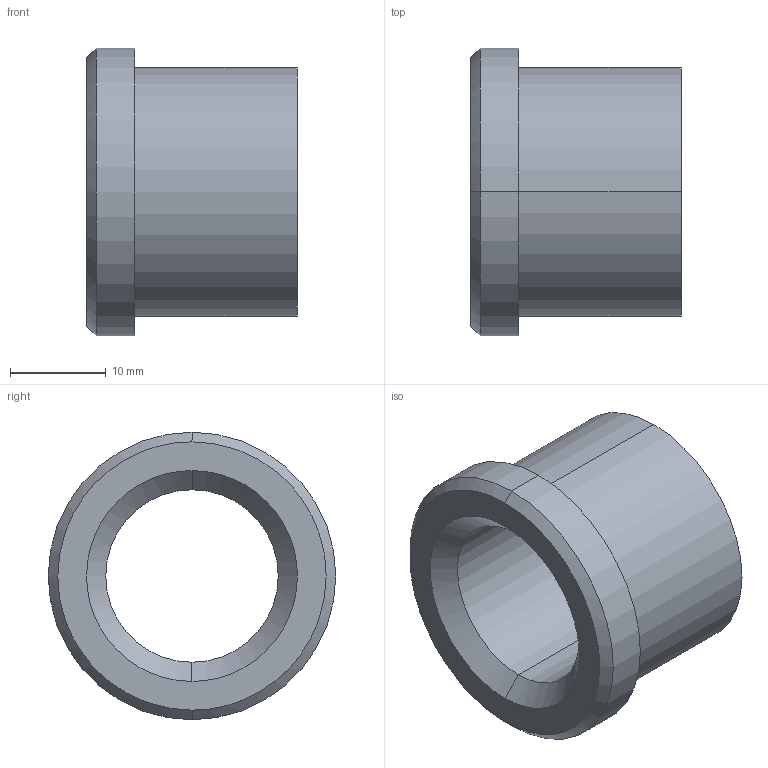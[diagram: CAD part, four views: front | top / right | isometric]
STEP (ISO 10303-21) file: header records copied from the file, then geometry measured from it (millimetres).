
FILE_DESCRIPTION(('CATIA V5 STEP Exchange'),'2;1');
FILE_NAME('C:\Users\Utente\Desktop\IO LAVORO\3D X SITO CF\X SITO\PLASTICA\353\353-18X22.stp','2021-05-08T08:44:59+00:00',('none'),('none'),'CATIA Version 5 Release 20 GA (IN-10)','CATIA V5 STEP AP203','none');
FILE_SCHEMA(('CONFIG_CONTROL_DESIGN'));
Length unit declared in the file: millimetre
Products named in the file (1): 353-18X22
Bounding box: 22 x 30 x 30 mm (x, y, z)
Volume: 6765.9 mm3; surface area: 3855.7 mm2
Topology: 1 solids, 1 shells, 15 faces, 48 edges, 36 vertices
Faces by surface type: cylinder 6, cone 4, plane 3, torus 2
Entity records: 680 total; most frequent: CARTESIAN_POINT 212, ORIENTED_EDGE 96, DIRECTION 70, EDGE_CURVE 48, AXIS2_PLACEMENT_3D 46, VERTEX_POINT 36, CIRCLE 30, EDGE_LOOP 18
